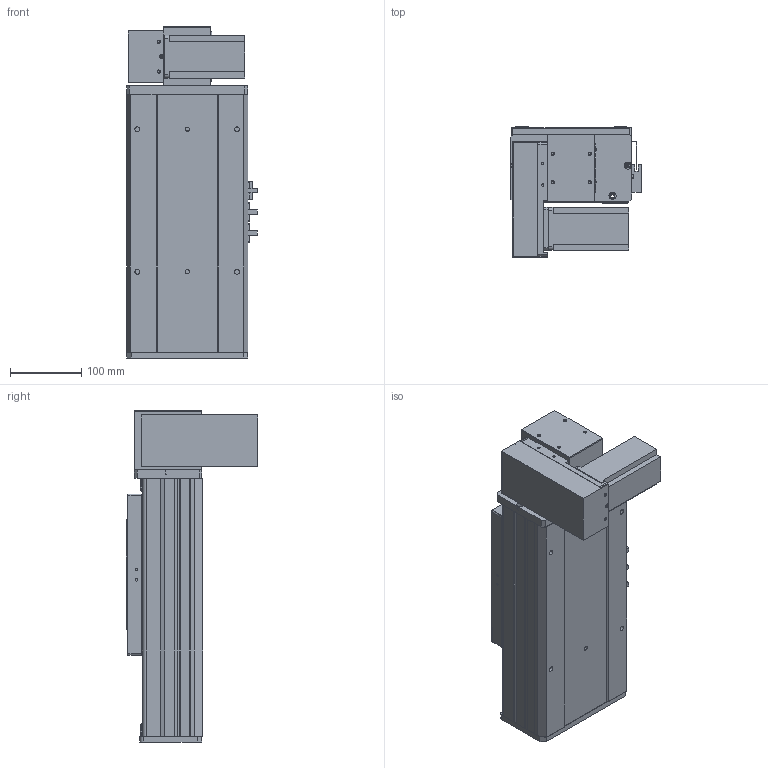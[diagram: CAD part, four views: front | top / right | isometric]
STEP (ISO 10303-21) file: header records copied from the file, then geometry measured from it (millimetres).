
FILE_DESCRIPTION (( 'STEP AP203' ), '1' );
FILE_NAME ('Y170CB-D105-S50-BM-P400W.STEP', '2020-02-20T06:03:55', ( '微软用户' ), ( '微软中国' ), 'SwSTEP 2.0', 'SolidWorks 2017', '' );
FILE_SCHEMA (( 'CONFIG_CONTROL_DESIGN' ));
Length unit declared in the file: millimetre
Products named in the file (18): 70CB-詩湍--; san松下电机400不带刹车----; Y100-135俋离換覜ん--; 70CB-掛极-; Y170CB-陔俋离換覜結え---; --70CB --喘謫眊楊擘啣-; Y1埴倛裔; 70CB-耜裔啣-; 17B-耜蚾蟀諉啣----; 70C--詩湍揤踡え-; 00B-俋欶BM--163; 70CB--耜裔; 70B喘謫眊----; 70C-雄赽釱-奻-; B-源倛裔啣; Y170CB-D105-S50-BM-P400W; 0C--雄赽釱俋欶-170; 0B-萇儂楊擘啣
Assembly tree (21 placements, depth 2):
  Y170CB-D105-S50-BM-P400W
    B-源倛裔啣
    0B-萇儂楊擘啣
    san松下电机400不带刹车----
    70CB-掛极-
    --70CB --喘謫眊楊擘啣-
    70CB-耜裔啣-  x2
    70C--詩湍揤踡え-  x2
    70CB--耜裔
    70C-雄赽釱-奻-
    0C--雄赽釱俋欶-170
    70CB-詩湍--
    Y100-135俋离換覜ん--  x3
    Y170CB-陔俋离換覜結え---
    Y1埴倛裔
    17B-耜蚾蟀諉啣----
    00B-俋欶BM--163
    70B喘謫眊----
Bounding box: 183.5 x 184 x 466 mm (x, y, z)
Volume: 2799423.1 mm3; surface area: 981714 mm2
Topology: 21 solids, 21 shells, 967 faces, 2573 edges, 1706 vertices
Faces by surface type: cylinder 481, plane 462, cone 24
Entity records: 30576 total; most frequent: CARTESIAN_POINT 5556, DIRECTION 4970, ORIENTED_EDGE 4628, EDGE_CURVE 2314, AXIS2_PLACEMENT_3D 1808, VERTEX_POINT 1536, VECTOR 1354, LINE 1354
